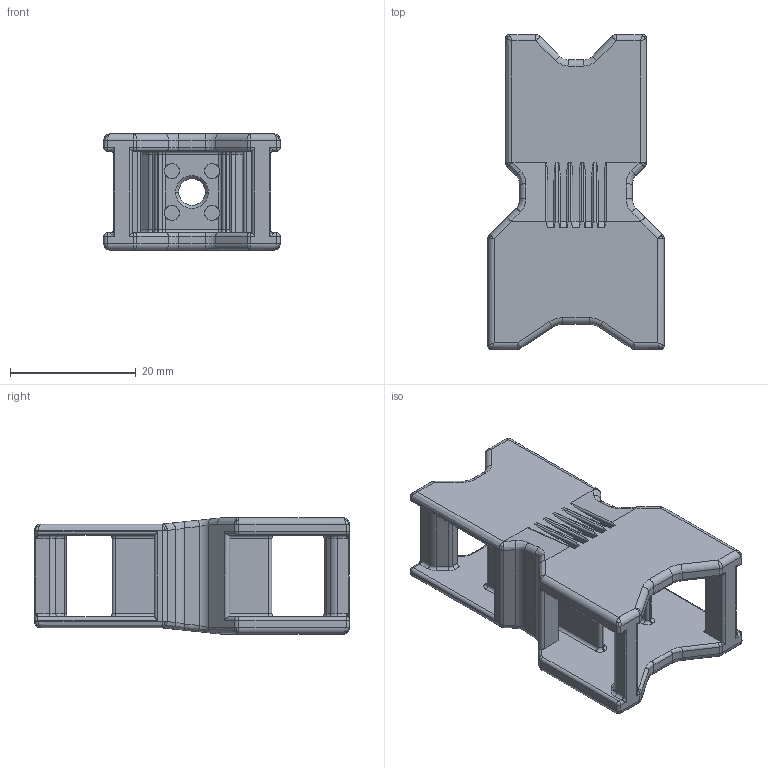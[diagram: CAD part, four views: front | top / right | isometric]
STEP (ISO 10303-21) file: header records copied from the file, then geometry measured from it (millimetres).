
FILE_DESCRIPTION(('Creo Elements/Direct Modeling STEP Export'),'2;1');
FILE_NAME('20130821_OL-F4-50.stp','2013-09-19T11:58:02',(''),(''),'Creo Elements/Direct Modeling STEP processor for AP214 (Solid Model)','Creo Elements/Direct Modeling 18.1B 29-Sep-2012 (C) Parametric Technology GmbH','');
FILE_SCHEMA(('AUTOMOTIVE_DESIGN { 1 0 10303 214 1 1 1 1 }'));
Length unit declared in the file: millimetre
Products named in the file (1): OL-F4-50
Bounding box: 28 x 50 x 18.5 mm (x, y, z)
Volume: 8018.4 mm3; surface area: 7779.3 mm2
Topology: 1 solids, 1 shells, 495 faces, 1254 edges, 714 vertices
Faces by surface type: cylinder 207, plane 114, bspline 101, torus 43, sphere 26, cone 4
Entity records: 25324 total; most frequent: CARTESIAN_POINT 14614, ORIENTED_EDGE 2434, DIRECTION 2017, EDGE_CURVE 1217, AXIS2_PLACEMENT_3D 748, VERTEX_POINT 714, VECTOR 521, LINE 521
